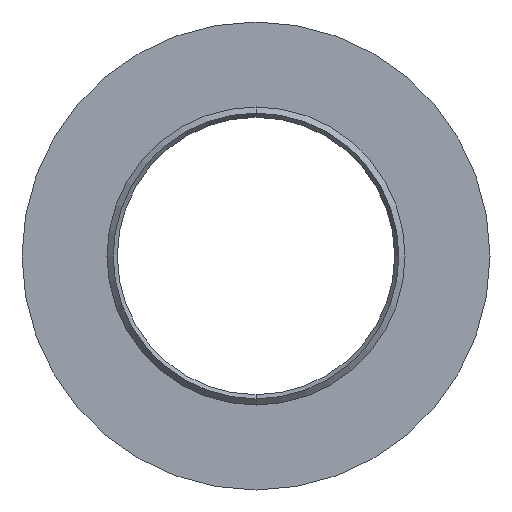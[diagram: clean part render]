
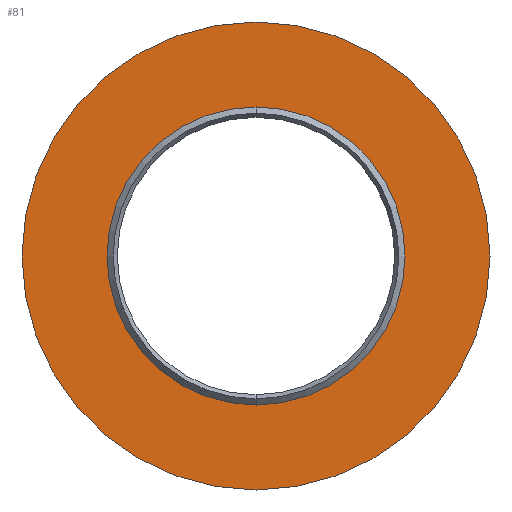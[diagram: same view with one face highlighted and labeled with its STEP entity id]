
A CAD part, front view. The second image highlights one B-rep face of the part: STEP entity #81.
In plain terms, the highlighted planar face has unit normal (0, -1, 0).
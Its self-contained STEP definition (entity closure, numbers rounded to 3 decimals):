
#21 = EDGE_CURVE ( 'NONE', #268, #189, #371, .T. ) ;
#36 = VERTEX_POINT ( 'NONE', #245 ) ;
#42 = EDGE_LOOP ( 'NONE', ( #409, #425 ) ) ;
#49 = DIRECTION ( 'NONE',  ( 0., 1., 0. ) ) ;
#60 = ORIENTED_EDGE ( 'NONE', *, *, #21, .T. ) ;
#71 = FACE_BOUND ( 'NONE', #293, .T. ) ;
#74 = DIRECTION ( 'NONE',  ( 0., 0., -1. ) ) ;
#76 = CARTESIAN_POINT ( 'NONE',  ( 0., -6., 0. ) ) ;
#78 = CARTESIAN_POINT ( 'NONE',  ( 0., -6., -8.6 ) ) ;
#79 = CIRCLE ( 'NONE', #478, 13.5 ) ;
#81 = ADVANCED_FACE ( 'NONE', ( #71, #277 ), #361, .F. ) ;
#82 = AXIS2_PLACEMENT_3D ( 'NONE', #467, #200, #431 ) ;
#86 = EDGE_CURVE ( 'NONE', #259, #36, #79, .T. ) ;
#109 = EDGE_CURVE ( 'NONE', #36, #259, #208, .T. ) ;
#136 = AXIS2_PLACEMENT_3D ( 'NONE', #310, #49, #276 ) ;
#138 = EDGE_CURVE ( 'NONE', #189, #268, #465, .T. ) ;
#158 = DIRECTION ( 'NONE',  ( 0., 0., -1. ) ) ;
#187 = AXIS2_PLACEMENT_3D ( 'NONE', #226, #242, #389 ) ;
#189 = VERTEX_POINT ( 'NONE', #455 ) ;
#199 = CARTESIAN_POINT ( 'NONE',  ( 0., -6., 0. ) ) ;
#200 = DIRECTION ( 'NONE',  ( 0., 1., 0. ) ) ;
#208 = CIRCLE ( 'NONE', #241, 13.5 ) ;
#226 = CARTESIAN_POINT ( 'NONE',  ( -8.1, -6., 0. ) ) ;
#241 = AXIS2_PLACEMENT_3D ( 'NONE', #76, #450, #74 ) ;
#242 = DIRECTION ( 'NONE',  ( 0., 1., 0. ) ) ;
#245 = CARTESIAN_POINT ( 'NONE',  ( 0., -6., 13.5 ) ) ;
#259 = VERTEX_POINT ( 'NONE', #403 ) ;
#268 = VERTEX_POINT ( 'NONE', #78 ) ;
#276 = DIRECTION ( 'NONE',  ( 0., 0., 1. ) ) ;
#277 = FACE_OUTER_BOUND ( 'NONE', #42, .T. ) ;
#293 = EDGE_LOOP ( 'NONE', ( #473, #60 ) ) ;
#310 = CARTESIAN_POINT ( 'NONE',  ( 0., -6., 0. ) ) ;
#361 = PLANE ( 'NONE',  #187 ) ;
#371 = CIRCLE ( 'NONE', #82, 8.6 ) ;
#389 = DIRECTION ( 'NONE',  ( 0., 0., 1. ) ) ;
#403 = CARTESIAN_POINT ( 'NONE',  ( 0., -6., -13.5 ) ) ;
#409 = ORIENTED_EDGE ( 'NONE', *, *, #86, .T. ) ;
#425 = ORIENTED_EDGE ( 'NONE', *, *, #109, .T. ) ;
#429 = DIRECTION ( 'NONE',  ( 0., -1., 0. ) ) ;
#431 = DIRECTION ( 'NONE',  ( 0., 0., 1. ) ) ;
#450 = DIRECTION ( 'NONE',  ( 0., -1., 0. ) ) ;
#455 = CARTESIAN_POINT ( 'NONE',  ( 0., -6., 8.6 ) ) ;
#465 = CIRCLE ( 'NONE', #136, 8.6 ) ;
#467 = CARTESIAN_POINT ( 'NONE',  ( 0., -6., 0. ) ) ;
#473 = ORIENTED_EDGE ( 'NONE', *, *, #138, .T. ) ;
#478 = AXIS2_PLACEMENT_3D ( 'NONE', #199, #429, #158 ) ;
